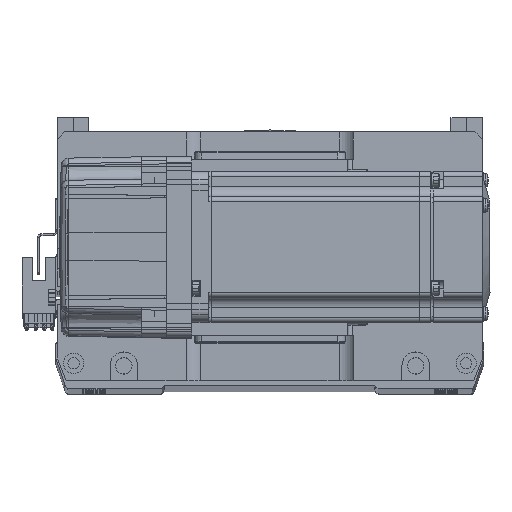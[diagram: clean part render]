
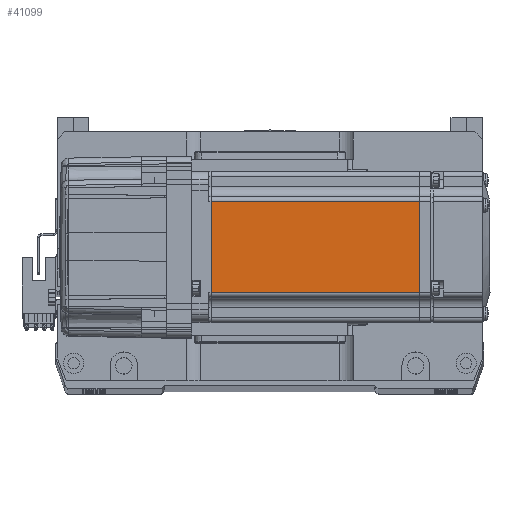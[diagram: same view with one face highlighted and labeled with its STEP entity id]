
A CAD part, top view. The second image highlights one B-rep face of the part: STEP entity #41099.
In plain terms, the highlighted planar face has unit normal (0, 0, 1) as drawn and (0, -1, 0) by its records, which use the part's own axes.
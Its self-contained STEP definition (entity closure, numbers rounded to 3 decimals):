
#9344 = CARTESIAN_POINT ( 'NONE',  ( -90.45, -30., -18. ) ) ;
#9669 = AXIS2_PLACEMENT_3D ( 'NONE', #23074, #13516, #18281 ) ;
#13380 = EDGE_CURVE ( 'NONE', #55245, #46131, #32777, .T. ) ;
#13516 = DIRECTION ( 'NONE',  ( 0., -1., 0. ) ) ;
#13808 = EDGE_LOOP ( 'NONE', ( #49738, #17348, #23960, #27579 ) ) ;
#15509 = CARTESIAN_POINT ( 'NONE',  ( -7.75, -30., -25. ) ) ;
#17348 = ORIENTED_EDGE ( 'NONE', *, *, #13380, .T. ) ;
#18067 = PLANE ( 'NONE',  #9669 ) ;
#18281 = DIRECTION ( 'NONE',  ( 0., 0., -1. ) ) ;
#19356 = EDGE_CURVE ( 'NONE', #31759, #60738, #28632, .T. ) ;
#21306 = FACE_OUTER_BOUND ( 'NONE', #13808, .T. ) ;
#21385 = DIRECTION ( 'NONE',  ( 0., 0., 1. ) ) ;
#23074 = CARTESIAN_POINT ( 'NONE',  ( -6.5, -30., -25. ) ) ;
#23960 = ORIENTED_EDGE ( 'NONE', *, *, #57351, .T. ) ;
#27186 = CARTESIAN_POINT ( 'NONE',  ( -7.75, -30., -18. ) ) ;
#27579 = ORIENTED_EDGE ( 'NONE', *, *, #19356, .T. ) ;
#28614 = CARTESIAN_POINT ( 'NONE',  ( -90.45, -30., -25. ) ) ;
#28632 = LINE ( 'NONE', #61528, #63790 ) ;
#30604 = CARTESIAN_POINT ( 'NONE',  ( -6.5, -30., 18. ) ) ;
#31759 = VERTEX_POINT ( 'NONE', #9344 ) ;
#32777 = LINE ( 'NONE', #30604, #59370 ) ;
#35620 = CARTESIAN_POINT ( 'NONE',  ( -90.45, -30., 18. ) ) ;
#35632 = DIRECTION ( 'NONE',  ( -1., 0., 0. ) ) ;
#38984 = LINE ( 'NONE', #15509, #41319 ) ;
#41099 = ADVANCED_FACE ( 'NONE', ( #21306 ), #18067, .T. ) ;
#41319 = VECTOR ( 'NONE', #21385, 1000. ) ;
#46131 = VERTEX_POINT ( 'NONE', #35620 ) ;
#47056 = EDGE_CURVE ( 'NONE', #60738, #55245, #38984, .T. ) ;
#48736 = VECTOR ( 'NONE', #53284, 1000. ) ;
#49738 = ORIENTED_EDGE ( 'NONE', *, *, #47056, .T. ) ;
#52801 = CARTESIAN_POINT ( 'NONE',  ( -7.75, -30., 18. ) ) ;
#53284 = DIRECTION ( 'NONE',  ( 0., 0., -1. ) ) ;
#55245 = VERTEX_POINT ( 'NONE', #52801 ) ;
#56461 = DIRECTION ( 'NONE',  ( 1., 0., 0. ) ) ;
#57316 = LINE ( 'NONE', #28614, #48736 ) ;
#57351 = EDGE_CURVE ( 'NONE', #46131, #31759, #57316, .T. ) ;
#59370 = VECTOR ( 'NONE', #35632, 1000. ) ;
#60738 = VERTEX_POINT ( 'NONE', #27186 ) ;
#61528 = CARTESIAN_POINT ( 'NONE',  ( -6.5, -30., -18. ) ) ;
#63790 = VECTOR ( 'NONE', #56461, 1000. ) ;
